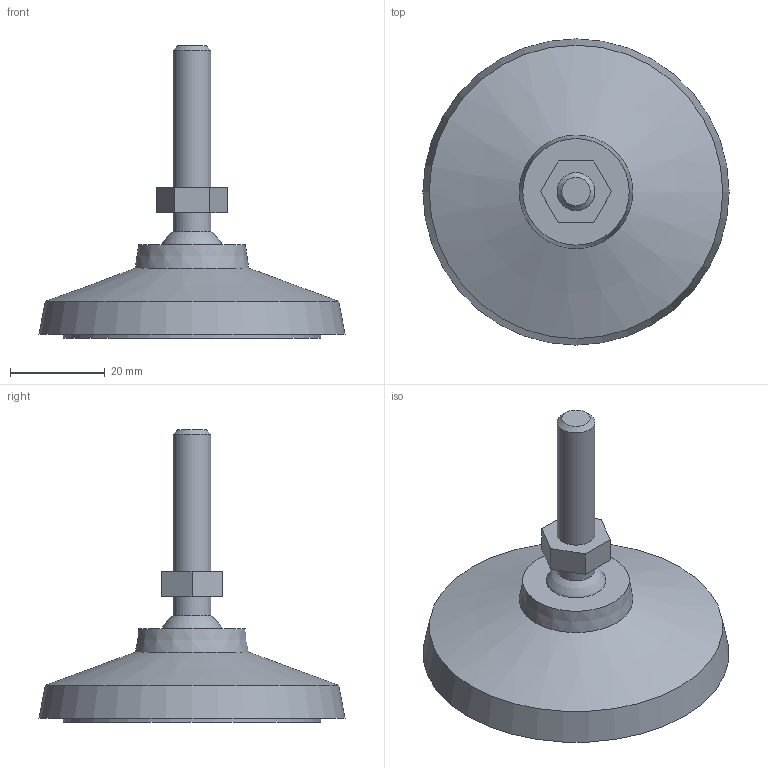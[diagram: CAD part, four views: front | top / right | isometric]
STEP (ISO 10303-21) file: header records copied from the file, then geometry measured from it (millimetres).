
FILE_DESCRIPTION( ('This file contains a STEP AP42 implementation' ,'as created by ZW3D STEP Interface translator.') ,'2;1' );
FILE_NAME( 'Stopa wahliwa D65.stp' ,'26 820. 94516', (''), ('ZWCAD Software Co.'), 'Version 1.0', 'ZW3D to STEP translator', '' );
FILE_SCHEMA(('AP242_MANAGED_MODEL_BASED_3D_ENGINEERING_MIM_LF { 1 0 10303 442 1 1 4 }'));
Length unit declared in the file: millimetre
Products named in the file (1): 0
Bounding box: 64.7 x 64.7 x 61.8 mm (x, y, z)
Volume: 33270 mm3; surface area: 18374.1 mm2
Topology: 3 solids, 3 shells, 52 faces, 126 edges, 88 vertices
Faces by surface type: plane 28, cone 16, cylinder 6, sphere 2
Full cylindrical faces by diameter (mm): 8 x2, 13.5 x2, 54.5 x2
Entity records: 1563 total; most frequent: CARTESIAN_POINT 305, DIRECTION 250, ORIENTED_EDGE 240, EDGE_CURVE 120, AXIS2_PLACEMENT_3D 97, VERTEX_POINT 80, EDGE_LOOP 58, VECTOR 56
